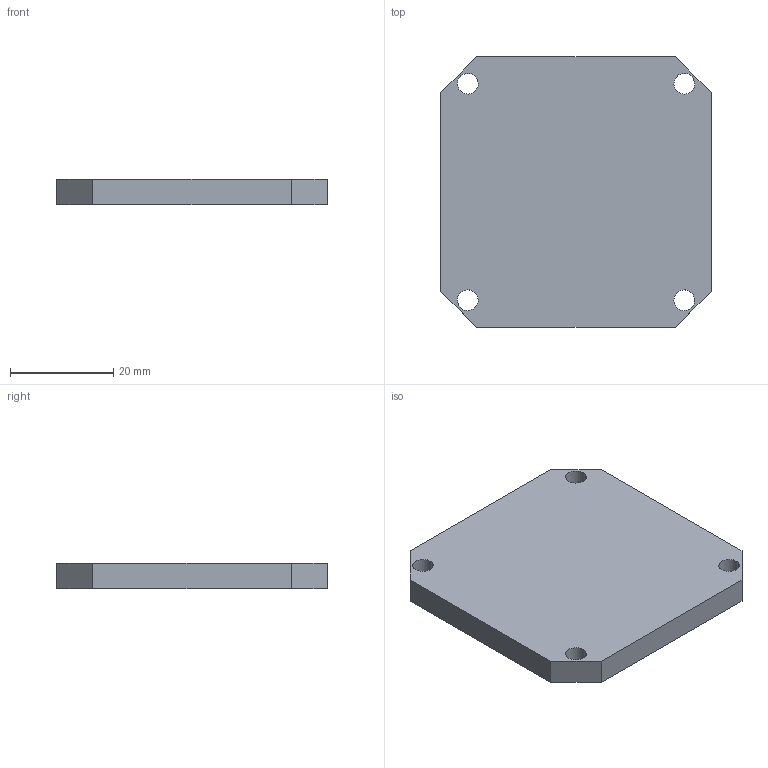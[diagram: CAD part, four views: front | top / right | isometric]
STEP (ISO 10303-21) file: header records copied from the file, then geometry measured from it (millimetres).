
FILE_DESCRIPTION(('CATIA V5 STEP Exchange'),'2;1');
FILE_NAME('C:\Users\Administrateur\Documents\Monture\Monture_voyage\Commande\Couvercle_inf.stp','2023-03-13T07:12:20+00:00',('none'),('none'),'CATIA Version 5 Release 18 GA (IN-10)','CATIA V5 STEP AP203','none');
FILE_SCHEMA(('CONFIG_CONTROL_DESIGN'));
Length unit declared in the file: millimetre
Products named in the file (1): Couvercle_inf
Bounding box: 52.3 x 52.31 x 5 mm (x, y, z)
Volume: 12946.9 mm3; surface area: 6395 mm2
Topology: 1 solids, 1 shells, 18 faces, 48 edges, 32 vertices
Faces by surface type: plane 10, cylinder 8
Entity records: 590 total; most frequent: ORIENTED_EDGE 96, CARTESIAN_POINT 95, DIRECTION 76, EDGE_CURVE 48, VECTOR 32, LINE 32, VERTEX_POINT 32, AXIS2_PLACEMENT_3D 31
